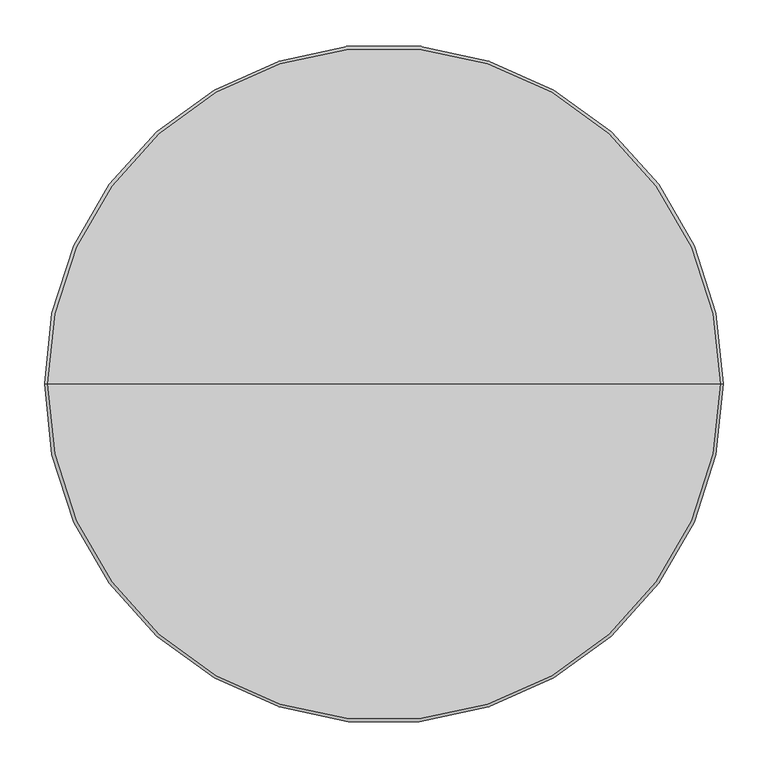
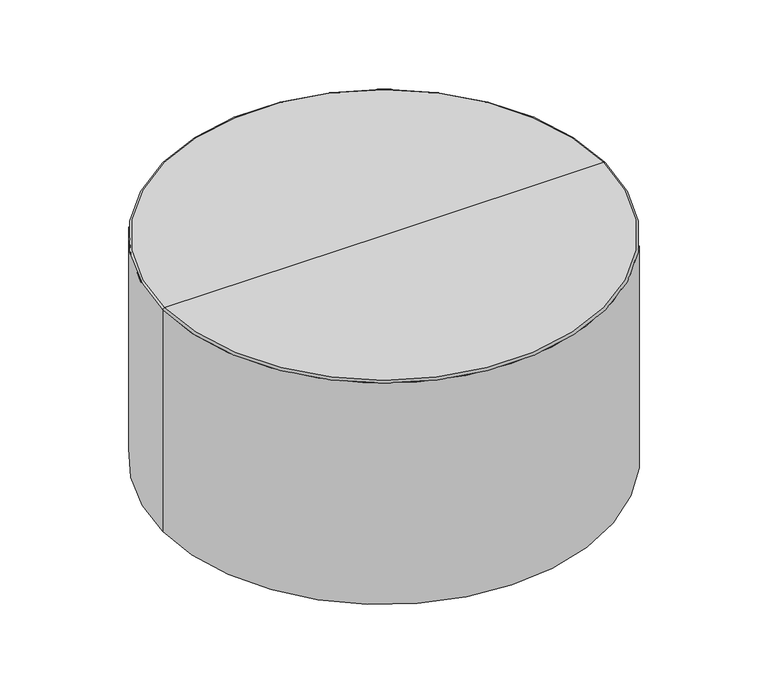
"""IFC4 building model written with IfcOpenShell, lengths in millimetres: furniture geometry, StanceHC-Drum_Table_Upholstered : DRT-30D-16-H."""

from ifc_helpers import new_model, si_unit, point, frame, frame_2d, origin, origin_with_axes, place, context, project, spatial, circle_curve, ellipse_curve, trimmed, segment, composite_curve, outline, extrude, source, transform, mapped, element, save
from ifc_brep_helpers import plane_surface, cylinder_surface, revolved_surface, advanced_brep


def furniture_28683404(model_context):
    return source(origin(), model_context, "Body", "SolidModel", [
        extrude(outline(composite_curve([segment(trimmed(circle_curve(frame_2d((0.0, 319.9664845)), 12.7), [point((-12.7, 319.9664845))], [point((12.7, 319.9664845))], False, "CARTESIAN"), True, "CONTINUOUS"), segment(trimmed(circle_curve(frame_2d((0.0, 319.9664845)), 12.7), [point((12.7, 319.9664845))], [point((-12.7, 319.9664845))], False, "CARTESIAN"), True, "CONTINUOUS")], self_intersect=False)), origin_with_axes(), (0.0, 0.0, 1.0), 4.7625),
        extrude(outline(composite_curve([segment(trimmed(circle_curve(frame_2d((0.0, -319.9664845)), 12.7), [point((-12.7, -319.9664845))], [point((12.7, -319.9664845))], False, "CARTESIAN"), True, "CONTINUOUS"), segment(trimmed(circle_curve(frame_2d((0.0, -319.9664845)), 12.7), [point((12.7, -319.9664845))], [point((-12.7, -319.9664845))], False, "CARTESIAN"), True, "CONTINUOUS")], self_intersect=False)), origin_with_axes(), (0.0, 0.0, 1.0), 4.7625),
        extrude(outline(composite_curve([segment(trimmed(circle_curve(frame_2d((323.8496404, 0.0)), 12.7), [point((311.1496404, 0.0))], [point((336.5496404, 0.0))], False, "CARTESIAN"), True, "CONTINUOUS"), segment(trimmed(circle_curve(frame_2d((323.8496404, 0.0)), 12.7), [point((336.5496404, 0.0))], [point((311.1496404, 0.0))], False, "CARTESIAN"), True, "CONTINUOUS")], self_intersect=False)), origin_with_axes(), (0.0, 0.0, 1.0), 4.7625),
        extrude(outline(composite_curve([segment(trimmed(circle_curve(frame_2d((-323.8496404, 0.0)), 12.7), [point((-336.5496404, 0.0))], [point((-311.1496404, 0.0))], False, "CARTESIAN"), True, "CONTINUOUS"), segment(trimmed(circle_curve(frame_2d((-323.8496404, 0.0)), 12.7), [point((-311.1496404, 0.0))], [point((-336.5496404, 0.0))], False, "CARTESIAN"), True, "CONTINUOUS")], self_intersect=False)), origin_with_axes(), (0.0, 0.0, 1.0), 4.7625),
        advanced_brep(
        [(-381.0, 0.0, 4.7625), (381.0, 0.0, 4.7625), (0.0, 0.0, 4.7625), (-381.0, 0.0, 408.0389933), (381.0, 0.0, 408.0389933), (-377.8764933, 0.0, 411.1625), (377.8764933, 0.0, 411.1625), (0.0, 0.0, 411.1625)],
        [
            (0, 1, circle_curve(frame((0.0, 0.0, 4.7625), z_axis=(0.0, 0.0, -1.0), x_axis=(1.0, 0.0, 0.0)), 381.0)),
            (1, 2),
            (2, 0),
            (1, 0, circle_curve(frame((0.0, 0.0, 4.7625), z_axis=(0.0, 0.0, -1.0), x_axis=(1.0, 0.0, 0.0)), 381.0)),
            (3, 4, circle_curve(frame((0.0, 0.0, 408.0389933), z_axis=(0.0, 0.0, -1.0), x_axis=(1.0, 0.0, 0.0)), 381.0)),
            (4, 1),
            (0, 3),
            (4, 3, circle_curve(frame((0.0, 0.0, 408.0389933), z_axis=(0.0, 0.0, -1.0), x_axis=(1.0, 0.0, 0.0)), 381.0)),
            (5, 6, circle_curve(frame((0.0, 0.0, 411.1625), z_axis=(0.0, 0.0, -1.0), x_axis=(1.0, 0.0, 0.0)), 377.8764933)),
            (6, 4, circle_curve(frame((377.8764933, 0.0, 408.0389933), z_axis=(0.0, 1.0, 0.0), x_axis=(1.0, 0.0, 0.0)), 3.1235067)),
            (3, 5, circle_curve(frame((-377.8764933, 0.0, 408.0389933), z_axis=(0.0, 1.0, 0.0), x_axis=(-1.0, 0.0, 0.0)), 3.1235067)),
            (6, 5, circle_curve(frame((0.0, 0.0, 411.1625), z_axis=(0.0, 0.0, -1.0), x_axis=(1.0, 0.0, 0.0)), 377.8764933)),
            (7, 6),
            (5, 7),
        ],
        [
            plane_surface(frame((0.0, 0.0, 4.7625), z_axis=(0.0, 0.0, -1.0), x_axis=(1.0, 0.0, 0.0))),
            cylinder_surface(frame((0.0, 0.0, 506.4125), z_axis=(0.0, 0.0, 1.0), x_axis=(1.0, 0.0, 0.0)), 381.0),
            revolved_surface(trimmed(ellipse_curve(frame((377.8764933, 0.0, 408.0389933), z_axis=(0.0, -1.0, 0.0), x_axis=(1.0, 0.0, 0.0)), 3.1235067, 3.1235067), [point((381.0, 0.0, 408.0389933))], [point((377.8764933, 0.0, 411.1625))], True, "CARTESIAN"), (0.0, 0.0, 506.4125), (0.0, 0.0, 1.0)),
            plane_surface(frame((0.0, 0.0, 411.1625), z_axis=(0.0, 0.0, 1.0), x_axis=(1.0, 0.0, 0.0))),
        ],
        [
            (0, [[1, 2, 3]]),
            (0, [[4, -3, -2]]),
            (1, [[5, 6, -1, 7]]),
            (1, [[8, -7, -4, -6]]),
            (2, [[9, 10, -5, 11]]),
            (2, [[12, -11, -8, -10]]),
            (3, [[13, -9, 14]]),
            (3, [[-14, -12, -13]]),
        ],
    ),
    ])


if __name__ == "__main__":
    model = new_model("IFC4")
    model_context = context("Model", 3, world=origin())
    ifc_project = project(units=[si_unit("LENGTHUNIT", "METRE", prefix="MILLI")], contexts=[model_context])
    site = spatial("IfcSite", under=ifc_project)
    building = spatial("IfcBuilding", under=site)
    placement = place(None, origin())
    furniture_shape = furniture_28683404(model_context)
    element("IfcFurniture", 1, ObjectType="StanceHC-Drum_Table_Upholstered : DRT-30D-16-H", at=placement, inside=building, context=model_context, shape_type="MappedRepresentation", body=[
        mapped(furniture_shape, transform((0.0, 0.0, 0.0), x_axis=(1.0, 0.0, 0.0), y_axis=(0.0, 1.0, 0.0), z_axis=(0.0, 0.0, 1.0))),
    ])
    save(model, "model.ifc")
